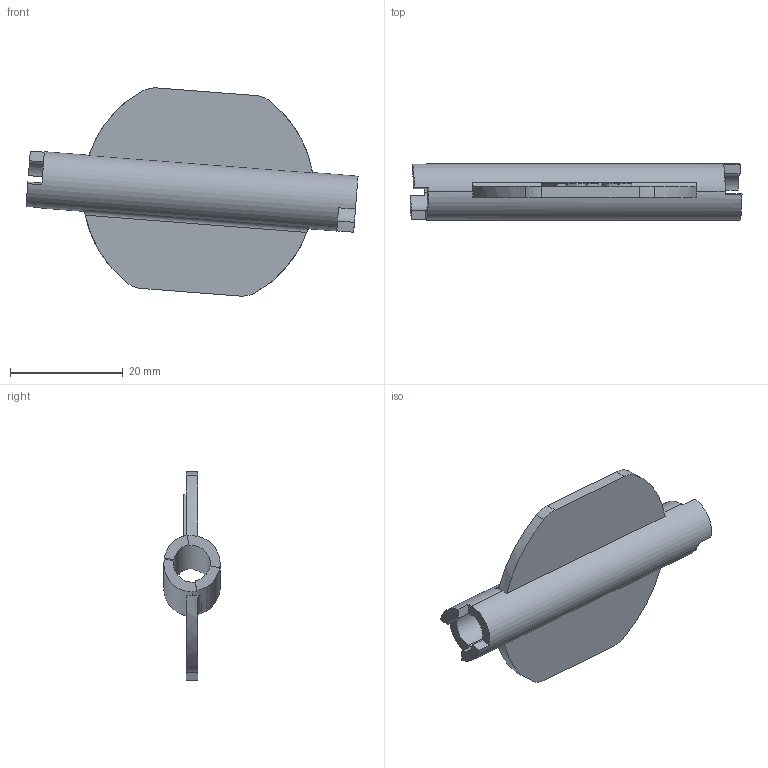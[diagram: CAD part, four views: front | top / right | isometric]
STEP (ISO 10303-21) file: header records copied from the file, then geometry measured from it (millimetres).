
FILE_DESCRIPTION((''),'2;1');
FILE_NAME('0000237128_PRT','2025-11-12T18:36:29',('Wyndorps'),(''),'CREO PARAMETRIC BY PTC INC, 2025010','CREO PARAMETRIC BY PTC INC, 2025010','');
FILE_SCHEMA(('CONFIG_CONTROL_DESIGN'));
Length unit declared in the file: millimetre
Products named in the file (1): 0000237128_PRT
Bounding box: 58.87 x 10 x 36.91 mm (x, y, z)
Volume: 4237.6 mm3; surface area: 4782.9 mm2
Topology: 1 solids, 1 shells, 82 faces, 228 edges, 152 vertices
Faces by surface type: plane 56, cylinder 14, extrusion 12
Entity records: 2789 total; most frequent: CARTESIAN_POINT 669, ORIENTED_EDGE 456, DIRECTION 384, EDGE_CURVE 228, VECTOR 164, LINE 152, VERTEX_POINT 152, AXIS2_PLACEMENT_3D 110
